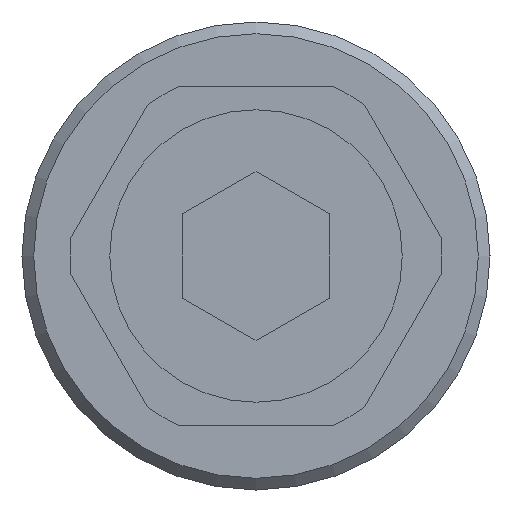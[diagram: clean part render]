
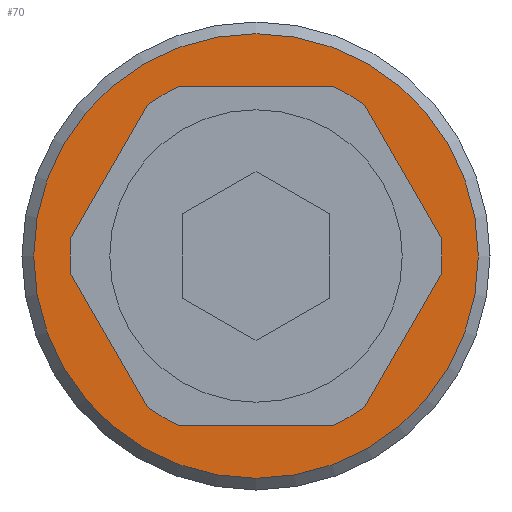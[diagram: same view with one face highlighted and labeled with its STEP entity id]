
A CAD part, left-side view. The second image highlights one B-rep face of the part: STEP entity #70.
In plain terms, the highlighted planar face has unit normal (-1, 0, 0).
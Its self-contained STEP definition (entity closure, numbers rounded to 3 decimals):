
#70 = ADVANCED_FACE( '', ( #166, #167 ), #168, .F. );
#166 = FACE_OUTER_BOUND( '', #299, .T. );
#167 = FACE_BOUND( '', #300, .T. );
#168 = PLANE( '', #301 );
#299 = EDGE_LOOP( '', ( #442 ) );
#300 = EDGE_LOOP( '', ( #443, #444, #445, #446, #447, #448, #449, #450, #451, #452, #453, #454 ) );
#301 = AXIS2_PLACEMENT_3D( '', #455, #456, #457 );
#442 = ORIENTED_EDGE( '', *, *, #711, .F. );
#443 = ORIENTED_EDGE( '', *, *, #712, .T. );
#444 = ORIENTED_EDGE( '', *, *, #713, .T. );
#445 = ORIENTED_EDGE( '', *, *, #714, .T. );
#446 = ORIENTED_EDGE( '', *, *, #715, .T. );
#447 = ORIENTED_EDGE( '', *, *, #716, .T. );
#448 = ORIENTED_EDGE( '', *, *, #717, .T. );
#449 = ORIENTED_EDGE( '', *, *, #718, .T. );
#450 = ORIENTED_EDGE( '', *, *, #719, .T. );
#451 = ORIENTED_EDGE( '', *, *, #720, .F. );
#452 = ORIENTED_EDGE( '', *, *, #721, .T. );
#453 = ORIENTED_EDGE( '', *, *, #722, .T. );
#454 = ORIENTED_EDGE( '', *, *, #723, .T. );
#455 = CARTESIAN_POINT( '', ( 0., 0., 0. ) );
#456 = DIRECTION( '', ( 1., 0., 0. ) );
#457 = DIRECTION( '', ( 0., 0., -1. ) );
#711 = EDGE_CURVE( '', #831, #831, #832, .T. );
#712 = EDGE_CURVE( '', #833, #834, #835, .T. );
#713 = EDGE_CURVE( '', #834, #836, #837, .T. );
#714 = EDGE_CURVE( '', #836, #838, #839, .T. );
#715 = EDGE_CURVE( '', #838, #840, #841, .T. );
#716 = EDGE_CURVE( '', #840, #842, #843, .T. );
#717 = EDGE_CURVE( '', #842, #844, #845, .T. );
#718 = EDGE_CURVE( '', #844, #846, #847, .T. );
#719 = EDGE_CURVE( '', #846, #848, #849, .T. );
#720 = EDGE_CURVE( '', #850, #848, #851, .F. );
#721 = EDGE_CURVE( '', #850, #852, #853, .T. );
#722 = EDGE_CURVE( '', #852, #854, #855, .T. );
#723 = EDGE_CURVE( '', #854, #833, #856, .T. );
#831 = VERTEX_POINT( '', #995 );
#832 = CIRCLE( '', #996, 3.8 );
#833 = VERTEX_POINT( '', #997 );
#834 = VERTEX_POINT( '', #998 );
#835 = CIRCLE( '', #999, 3.18 );
#836 = VERTEX_POINT( '', #1000 );
#837 = LINE( '', #1001, #1002 );
#838 = VERTEX_POINT( '', #1003 );
#839 = CIRCLE( '', #1004, 3.18 );
#840 = VERTEX_POINT( '', #1005 );
#841 = LINE( '', #1006, #1007 );
#842 = VERTEX_POINT( '', #1008 );
#843 = CIRCLE( '', #1009, 3.18 );
#844 = VERTEX_POINT( '', #1010 );
#845 = LINE( '', #1011, #1012 );
#846 = VERTEX_POINT( '', #1013 );
#847 = CIRCLE( '', #1014, 3.18 );
#848 = VERTEX_POINT( '', #1015 );
#849 = LINE( '', #1016, #1017 );
#850 = VERTEX_POINT( '', #1018 );
#851 = CIRCLE( '', #1019, 3.18 );
#852 = VERTEX_POINT( '', #1020 );
#853 = LINE( '', #1021, #1022 );
#854 = VERTEX_POINT( '', #1023 );
#855 = CIRCLE( '', #1024, 3.18 );
#856 = LINE( '', #1025, #1026 );
#995 = CARTESIAN_POINT( '', ( 0., 0., -3.8 ) );
#996 = AXIS2_PLACEMENT_3D( '', #1176, #1177, #1178 );
#997 = CARTESIAN_POINT( '', ( 0., -1.305, 2.9 ) );
#998 = CARTESIAN_POINT( '', ( 0., -1.859, 2.58 ) );
#999 = AXIS2_PLACEMENT_3D( '', #1179, #1180, #1181 );
#1000 = CARTESIAN_POINT( '', ( 0., -3.164, 0.32 ) );
#1001 = CARTESIAN_POINT( '', ( 0., -1.859, 2.58 ) );
#1002 = VECTOR( '', #1182, 1000. );
#1003 = CARTESIAN_POINT( '', ( 0., -3.164, -0.32 ) );
#1004 = AXIS2_PLACEMENT_3D( '', #1183, #1184, #1185 );
#1005 = CARTESIAN_POINT( '', ( 0., -1.859, -2.58 ) );
#1006 = CARTESIAN_POINT( '', ( 0., -3.164, -0.32 ) );
#1007 = VECTOR( '', #1186, 1000. );
#1008 = CARTESIAN_POINT( '', ( 0., -1.305, -2.9 ) );
#1009 = AXIS2_PLACEMENT_3D( '', #1187, #1188, #1189 );
#1010 = CARTESIAN_POINT( '', ( 0., 1.305, -2.9 ) );
#1011 = CARTESIAN_POINT( '', ( 0., -1.305, -2.9 ) );
#1012 = VECTOR( '', #1190, 1000. );
#1013 = CARTESIAN_POINT( '', ( 0., 1.859, -2.58 ) );
#1014 = AXIS2_PLACEMENT_3D( '', #1191, #1192, #1193 );
#1015 = CARTESIAN_POINT( '', ( 0., 3.164, -0.32 ) );
#1016 = CARTESIAN_POINT( '', ( 0., 1.859, -2.58 ) );
#1017 = VECTOR( '', #1194, 1000. );
#1018 = CARTESIAN_POINT( '', ( 0., 3.164, 0.32 ) );
#1019 = AXIS2_PLACEMENT_3D( '', #1195, #1196, #1197 );
#1020 = CARTESIAN_POINT( '', ( 0., 1.859, 2.58 ) );
#1021 = CARTESIAN_POINT( '', ( 0., 3.164, 0.32 ) );
#1022 = VECTOR( '', #1198, 1000. );
#1023 = CARTESIAN_POINT( '', ( 0., 1.305, 2.9 ) );
#1024 = AXIS2_PLACEMENT_3D( '', #1199, #1200, #1201 );
#1025 = CARTESIAN_POINT( '', ( 0., 1.305, 2.9 ) );
#1026 = VECTOR( '', #1202, 1000. );
#1176 = CARTESIAN_POINT( '', ( 0., 0., 0. ) );
#1177 = DIRECTION( '', ( 1., 0., 0. ) );
#1178 = DIRECTION( '', ( 0., 0., -1. ) );
#1179 = CARTESIAN_POINT( '', ( 0., 0., 0. ) );
#1180 = DIRECTION( '', ( 1., 0., 0. ) );
#1181 = DIRECTION( '', ( 0., 0., -1. ) );
#1182 = DIRECTION( '', ( 0., -0.5, -0.866 ) );
#1183 = CARTESIAN_POINT( '', ( 0., 0., 0. ) );
#1184 = DIRECTION( '', ( 1., 0., 0. ) );
#1185 = DIRECTION( '', ( 0., 0., -1. ) );
#1186 = DIRECTION( '', ( 0., 0.5, -0.866 ) );
#1187 = CARTESIAN_POINT( '', ( 0., 0., 0. ) );
#1188 = DIRECTION( '', ( 1., 0., 0. ) );
#1189 = DIRECTION( '', ( 0., 0., -1. ) );
#1190 = DIRECTION( '', ( 0., 1., 0. ) );
#1191 = CARTESIAN_POINT( '', ( 0., 0., 0. ) );
#1192 = DIRECTION( '', ( 1., 0., 0. ) );
#1193 = DIRECTION( '', ( 0., 0., -1. ) );
#1194 = DIRECTION( '', ( 0., 0.5, 0.866 ) );
#1195 = CARTESIAN_POINT( '', ( 0., 0., 0. ) );
#1196 = DIRECTION( '', ( 1., 0., 0. ) );
#1197 = DIRECTION( '', ( 0., 0., -1. ) );
#1198 = DIRECTION( '', ( 0., -0.5, 0.866 ) );
#1199 = CARTESIAN_POINT( '', ( 0., 0., 0. ) );
#1200 = DIRECTION( '', ( 1., 0., 0. ) );
#1201 = DIRECTION( '', ( 0., 0., -1. ) );
#1202 = DIRECTION( '', ( 0., -1., 0. ) );
